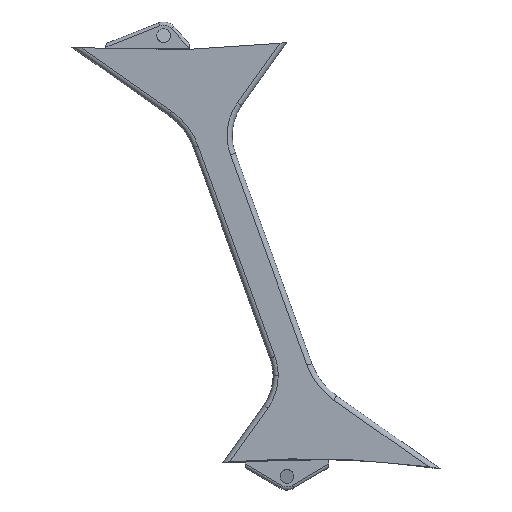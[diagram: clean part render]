
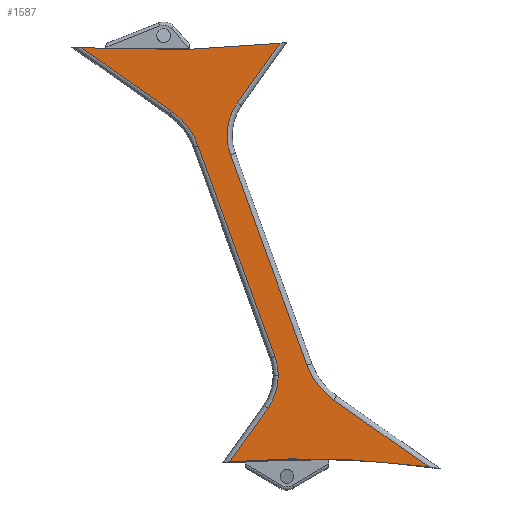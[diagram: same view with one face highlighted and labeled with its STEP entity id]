
A CAD part, top view. The second image highlights one B-rep face of the part: STEP entity #1587.
In plain terms, the highlighted planar face has unit normal (0, 0, 1).
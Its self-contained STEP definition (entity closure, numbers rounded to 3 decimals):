
#1 = DIRECTION ( 'NONE',  ( 0., 0., -1. ) ) ;
#127 = ORIENTED_EDGE ( 'NONE', *, *, #819, .T. ) ;
#135 = DIRECTION ( 'NONE',  ( 1., 0., 0. ) ) ;
#153 = CARTESIAN_POINT ( 'NONE',  ( 59.447, -107.292, 1.5 ) ) ;
#161 = DIRECTION ( 'NONE',  ( 1., 0., 0. ) ) ;
#173 = CARTESIAN_POINT ( 'NONE',  ( 48.491, -32.92, 1.5 ) ) ;
#188 = ORIENTED_EDGE ( 'NONE', *, *, #1181, .T. ) ;
#206 = LINE ( 'NONE', #1457, #1740 ) ;
#227 = VERTEX_POINT ( 'NONE', #1316 ) ;
#254 = LINE ( 'NONE', #1600, #556 ) ;
#271 = CARTESIAN_POINT ( 'NONE',  ( 83.232, -122.215, 1.5 ) ) ;
#278 = CARTESIAN_POINT ( 'NONE',  ( 106.494, -124.365, 1.5 ) ) ;
#289 = CARTESIAN_POINT ( 'NONE',  ( 92.365, -122.696, 1.5 ) ) ;
#303 = CARTESIAN_POINT ( 'NONE',  ( 70.349, -122.023, 1.5 ) ) ;
#421 = CARTESIAN_POINT ( 'NONE',  ( 60.329, -0.586, 1.5 ) ) ;
#439 = DIRECTION ( 'NONE',  ( 0.342, -0.94, 0. ) ) ;
#445 = DIRECTION ( 'NONE',  ( 1., 0., 0. ) ) ;
#475 = FACE_OUTER_BOUND ( 'NONE', #2593, .T. ) ;
#498 = VERTEX_POINT ( 'NONE', #1704 ) ;
#505 = VERTEX_POINT ( 'NONE', #1246 ) ;
#514 = CARTESIAN_POINT ( 'NONE',  ( 60.741, -122.198, 1.5 ) ) ;
#532 = ORIENTED_EDGE ( 'NONE', *, *, #1695, .T. ) ;
#535 = CARTESIAN_POINT ( 'NONE',  ( 48.303, -122.947, 1.5 ) ) ;
#556 = VECTOR ( 'NONE', #439, 1000. ) ;
#558 = AXIS2_PLACEMENT_3D ( 'NONE', #877, #2479, #2512 ) ;
#611 = DIRECTION ( 'NONE',  ( 0., 0., -1. ) ) ;
#654 = CARTESIAN_POINT ( 'NONE',  ( 62.977, -0.256, 1.5 ) ) ;
#666 = DIRECTION ( 'NONE',  ( 0., 0., -1. ) ) ;
#708 = CIRCLE ( 'NONE', #558, 16.5 ) ;
#752 = DIRECTION ( 'NONE',  ( -0.342, 0.94, 0. ) ) ;
#775 = CARTESIAN_POINT ( 'NONE',  ( 105.012, -124.156, 1.5 ) ) ;
#776 = LINE ( 'NONE', #2106, #1172 ) ;
#777 = EDGE_CURVE ( 'NONE', #2948, #2887, #950, .T. ) ;
#779 = VECTOR ( 'NONE', #2858, 1000. ) ;
#819 = EDGE_CURVE ( 'NONE', #505, #1610, #254, .T. ) ;
#877 = CARTESIAN_POINT ( 'NONE',  ( 63.996, -27.277, 1.5 ) ) ;
#950 = B_SPLINE_CURVE_WITH_KNOTS ( 'NONE', 3,
 ( #1770, #2001, #1353, #421, #654 ),
 .UNSPECIFIED., .F., .F.,
 ( 4, 1, 4 ),
 ( 0.218, 0.579, 0.645 ),
 .UNSPECIFIED. ) ;
#969 = EDGE_CURVE ( 'NONE', #1610, #1474, #1780, .T. ) ;
#983 = CARTESIAN_POINT ( 'NONE',  ( 80.123, -122.111, 1.5 ) ) ;
#985 = VERTEX_POINT ( 'NONE', #153 ) ;
#1021 = CARTESIAN_POINT ( 'NONE',  ( 98.195, -123.24, 1.5 ) ) ;
#1060 = EDGE_CURVE ( 'NONE', #1447, #227, #708, .T. ) ;
#1091 = VECTOR ( 'NONE', #2402, 1000. ) ;
#1095 = LINE ( 'NONE', #1185, #779 ) ;
#1107 = ORIENTED_EDGE ( 'NONE', *, *, #1140, .T. ) ;
#1127 = DIRECTION ( 'NONE',  ( -0.818, 0.576, 0. ) ) ;
#1140 = EDGE_CURVE ( 'NONE', #2502, #2959, #2974, .T. ) ;
#1172 = VECTOR ( 'NONE', #2750, 1000. ) ;
#1181 = EDGE_CURVE ( 'NONE', #2959, #2187, #3023, .T. ) ;
#1185 = CARTESIAN_POINT ( 'NONE',  ( 31.231, -20.16, 1.5 ) ) ;
#1216 = ORIENTED_EDGE ( 'NONE', *, *, #1060, .T. ) ;
#1236 = EDGE_CURVE ( 'NONE', #2502, #498, #2242, .T. ) ;
#1244 = VECTOR ( 'NONE', #1127, 1000. ) ;
#1246 = CARTESIAN_POINT ( 'NONE',  ( 39.054, -30.385, 1.5 ) ) ;
#1253 = ORIENTED_EDGE ( 'NONE', *, *, #1731, .T. ) ;
#1315 = DIRECTION ( 'NONE',  ( 1., 0., 0. ) ) ;
#1316 = CARTESIAN_POINT ( 'NONE',  ( 50.553, -17.708, 1.5 ) ) ;
#1319 = CARTESIAN_POINT ( 'NONE',  ( 4.82, -1.56, 1.5 ) ) ;
#1334 = CARTESIAN_POINT ( 'NONE',  ( 0., 0., 1.5 ) ) ;
#1348 = CARTESIAN_POINT ( 'NONE',  ( 61.509, -92.08, 1.5 ) ) ;
#1353 = CARTESIAN_POINT ( 'NONE',  ( 45.001, -2.373, 1.5 ) ) ;
#1357 = CARTESIAN_POINT ( 'NONE',  ( 78.769, -104.84, 1.5 ) ) ;
#1407 = DIRECTION ( 'NONE',  ( 1., 0., 0. ) ) ;
#1410 = AXIS2_PLACEMENT_3D ( 'NONE', #2401, #1459, #1407 ) ;
#1442 = CARTESIAN_POINT ( 'NONE',  ( 105.751, -124.259, 1.5 ) ) ;
#1447 = VERTEX_POINT ( 'NONE', #173 ) ;
#1453 = CARTESIAN_POINT ( 'NONE',  ( 54.362, -122.492, 1.5 ) ) ;
#1457 = CARTESIAN_POINT ( 'NONE',  ( 48.491, -32.92, 1.5 ) ) ;
#1459 = DIRECTION ( 'NONE',  ( 0., 0., -1. ) ) ;
#1474 = VERTEX_POINT ( 'NONE', #2800 ) ;
#1559 = CIRCLE ( 'NONE', #1410, 16.5 ) ;
#1560 = DIRECTION ( 'NONE',  ( 0., 0., 1. ) ) ;
#1577 = CARTESIAN_POINT ( 'NONE',  ( 31.231, -20.16, 1.5 ) ) ;
#1587 = ADVANCED_FACE ( 'NONE', ( #475 ), #2688, .T. ) ;
#1600 = CARTESIAN_POINT ( 'NONE',  ( 61.509, -92.08, 1.5 ) ) ;
#1610 = VERTEX_POINT ( 'NONE', #1348 ) ;
#1679 = ORIENTED_EDGE ( 'NONE', *, *, #2669, .T. ) ;
#1695 = EDGE_CURVE ( 'NONE', #1474, #985, #1559, .T. ) ;
#1697 = AXIS2_PLACEMENT_3D ( 'NONE', #2485, #666, #1315 ) ;
#1704 = CARTESIAN_POINT ( 'NONE',  ( 48.303, -122.947, 1.5 ) ) ;
#1714 = EDGE_CURVE ( 'NONE', #2948, #1862, #1095, .T. ) ;
#1731 = EDGE_CURVE ( 'NONE', #1862, #505, #2528, .T. ) ;
#1740 = VECTOR ( 'NONE', #752, 1000. ) ;
#1768 = CARTESIAN_POINT ( 'NONE',  ( 78.769, -104.84, 1.5 ) ) ;
#1770 = CARTESIAN_POINT ( 'NONE',  ( 4.82, -1.56, 1.5 ) ) ;
#1780 = CIRCLE ( 'NONE', #1697, 16.5 ) ;
#1862 = VERTEX_POINT ( 'NONE', #1577 ) ;
#1961 = EDGE_CURVE ( 'NONE', #985, #498, #776, .T. ) ;
#1966 = CARTESIAN_POINT ( 'NONE',  ( 70.946, -94.615, 1.5 ) ) ;
#2001 = CARTESIAN_POINT ( 'NONE',  ( 20.496, -2.408, 1.5 ) ) ;
#2106 = CARTESIAN_POINT ( 'NONE',  ( 47.575, -123.97, 1.5 ) ) ;
#2184 = CARTESIAN_POINT ( 'NONE',  ( 62.977, -0.256, 1.5 ) ) ;
#2187 = VERTEX_POINT ( 'NONE', #1966 ) ;
#2197 = ORIENTED_EDGE ( 'NONE', *, *, #969, .T. ) ;
#2242 = B_SPLINE_CURVE_WITH_KNOTS ( 'NONE', 3,
 ( #2607, #1442, #775, #1021, #289, #271, #983, #2843, #303, #514, #1453, #535 ),
 .UNSPECIFIED., .F., .F.,
 ( 4, 2, 2, 2, 2, 4 ),
 ( 0.004, 0.007, 0.026, 0.035, 0.045, 0.063 ),
 .UNSPECIFIED. ) ;
#2253 = ORIENTED_EDGE ( 'NONE', *, *, #777, .F. ) ;
#2259 = AXIS2_PLACEMENT_3D ( 'NONE', #2298, #1, #445 ) ;
#2298 = CARTESIAN_POINT ( 'NONE',  ( 91.149, -87.262, 1.5 ) ) ;
#2329 = ORIENTED_EDGE ( 'NONE', *, *, #1714, .T. ) ;
#2368 = ORIENTED_EDGE ( 'NONE', *, *, #2404, .T. ) ;
#2401 = CARTESIAN_POINT ( 'NONE',  ( 46.004, -97.723, 1.5 ) ) ;
#2402 = DIRECTION ( 'NONE',  ( 0.58, 0.815, 0. ) ) ;
#2404 = EDGE_CURVE ( 'NONE', #2187, #1447, #206, .T. ) ;
#2479 = DIRECTION ( 'NONE',  ( 0., 0., -1. ) ) ;
#2485 = CARTESIAN_POINT ( 'NONE',  ( 46.004, -97.723, 1.5 ) ) ;
#2502 = VERTEX_POINT ( 'NONE', #278 ) ;
#2512 = DIRECTION ( 'NONE',  ( 1., 0., 0. ) ) ;
#2522 = LINE ( 'NONE', #2821, #1091 ) ;
#2528 = CIRCLE ( 'NONE', #2981, 21.5 ) ;
#2593 = EDGE_LOOP ( 'NONE', ( #2253, #2329, #1253, #127, #2197, #532, #2820, #2652, #1107, #188, #2368, #1216, #1679 ) ) ;
#2607 = CARTESIAN_POINT ( 'NONE',  ( 106.494, -124.365, 1.5 ) ) ;
#2652 = ORIENTED_EDGE ( 'NONE', *, *, #1236, .F. ) ;
#2669 = EDGE_CURVE ( 'NONE', #227, #2887, #2522, .T. ) ;
#2685 = CARTESIAN_POINT ( 'NONE',  ( 18.851, -37.738, 1.5 ) ) ;
#2688 = PLANE ( 'NONE',  #2866 ) ;
#2750 = DIRECTION ( 'NONE',  ( -0.58, -0.815, 0. ) ) ;
#2800 = CARTESIAN_POINT ( 'NONE',  ( 62.504, -97.723, 1.5 ) ) ;
#2820 = ORIENTED_EDGE ( 'NONE', *, *, #1961, .T. ) ;
#2821 = CARTESIAN_POINT ( 'NONE',  ( 63.778, 0.87, 1.5 ) ) ;
#2843 = CARTESIAN_POINT ( 'NONE',  ( 73.687, -122.014, 1.5 ) ) ;
#2858 = DIRECTION ( 'NONE',  ( 0.818, -0.576, 0. ) ) ;
#2866 = AXIS2_PLACEMENT_3D ( 'NONE', #1334, #1560, #161 ) ;
#2887 = VERTEX_POINT ( 'NONE', #2184 ) ;
#2948 = VERTEX_POINT ( 'NONE', #1319 ) ;
#2959 = VERTEX_POINT ( 'NONE', #1768 ) ;
#2974 = LINE ( 'NONE', #1357, #1244 ) ;
#2981 = AXIS2_PLACEMENT_3D ( 'NONE', #2685, #611, #135 ) ;
#3023 = CIRCLE ( 'NONE', #2259, 21.5 ) ;
